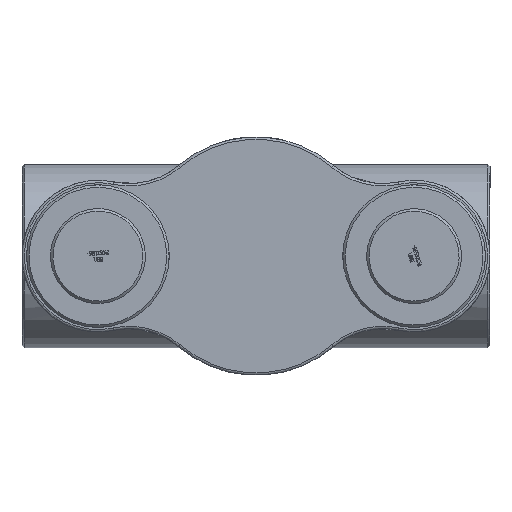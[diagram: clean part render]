
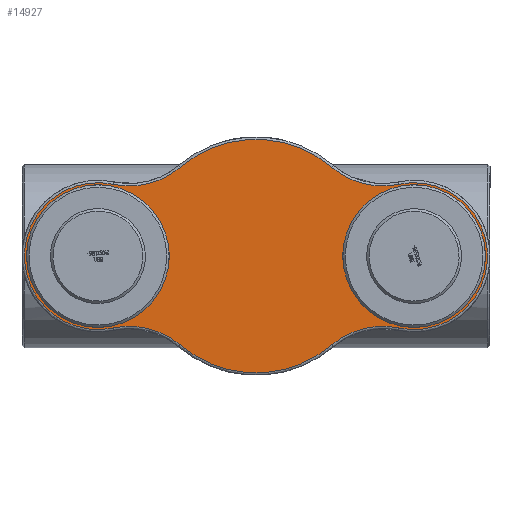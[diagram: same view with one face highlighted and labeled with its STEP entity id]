
A CAD part, front view. The second image highlights one B-rep face of the part: STEP entity #14927.
In plain terms, the highlighted planar face has unit normal (0, -1, 0) as drawn and (0, 0, -1) by its records, which use the part's own axes.
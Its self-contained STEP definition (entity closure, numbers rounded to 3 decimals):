
#3923=PLANE('',#15885);
#4330=FACE_BOUND('',#5301,.T.);
#4331=FACE_BOUND('',#5302,.T.);
#4431=FACE_OUTER_BOUND('',#5300,.T.);
#5300=EDGE_LOOP('',(#10298,#10299,#10300,#10301,#10302,#10303,#10304,#10305));
#5301=EDGE_LOOP('',(#10306));
#5302=EDGE_LOOP('',(#10307));
#6268=CIRCLE('',#15884,106.5);
#6269=CIRCLE('',#15886,151.);
#6270=CIRCLE('',#15887,161.);
#6271=CIRCLE('',#15888,240.);
#6272=CIRCLE('',#15889,161.);
#6273=CIRCLE('',#15890,151.);
#6274=CIRCLE('',#15891,161.);
#6275=CIRCLE('',#15892,240.);
#6276=CIRCLE('',#15893,161.);
#6277=CIRCLE('',#15894,106.5);
#6456=VERTEX_POINT('',#19365);
#6457=VERTEX_POINT('',#19368);
#6458=VERTEX_POINT('',#19369);
#6459=VERTEX_POINT('',#19371);
#6460=VERTEX_POINT('',#19373);
#6461=VERTEX_POINT('',#19375);
#6462=VERTEX_POINT('',#19377);
#6463=VERTEX_POINT('',#19379);
#6464=VERTEX_POINT('',#19381);
#6465=VERTEX_POINT('',#19384);
#7992=EDGE_CURVE('',#6456,#6456,#6268,.T.);
#7993=EDGE_CURVE('',#6457,#6458,#6269,.T.);
#7994=EDGE_CURVE('',#6459,#6457,#6270,.T.);
#7995=EDGE_CURVE('',#6460,#6459,#6271,.T.);
#7996=EDGE_CURVE('',#6461,#6460,#6272,.T.);
#7997=EDGE_CURVE('',#6462,#6461,#6273,.T.);
#7998=EDGE_CURVE('',#6463,#6462,#6274,.T.);
#7999=EDGE_CURVE('',#6464,#6463,#6275,.T.);
#8000=EDGE_CURVE('',#6458,#6464,#6276,.T.);
#8001=EDGE_CURVE('',#6465,#6465,#6277,.T.);
#10298=ORIENTED_EDGE('',*,*,#7993,.F.);
#10299=ORIENTED_EDGE('',*,*,#7994,.F.);
#10300=ORIENTED_EDGE('',*,*,#7995,.F.);
#10301=ORIENTED_EDGE('',*,*,#7996,.F.);
#10302=ORIENTED_EDGE('',*,*,#7997,.F.);
#10303=ORIENTED_EDGE('',*,*,#7998,.F.);
#10304=ORIENTED_EDGE('',*,*,#7999,.F.);
#10305=ORIENTED_EDGE('',*,*,#8000,.F.);
#10306=ORIENTED_EDGE('',*,*,#8001,.F.);
#10307=ORIENTED_EDGE('',*,*,#7992,.F.);
#14927=ADVANCED_FACE('',(#4431,#4330,#4331),#3923,.F.);
#15884=AXIS2_PLACEMENT_3D('',#19366,#16613,#16614);
#15885=AXIS2_PLACEMENT_3D('',#19367,#16615,#16616);
#15886=AXIS2_PLACEMENT_3D('',#19370,#16617,#16618);
#15887=AXIS2_PLACEMENT_3D('',#19372,#16619,#16620);
#15888=AXIS2_PLACEMENT_3D('',#19374,#16621,#16622);
#15889=AXIS2_PLACEMENT_3D('',#19376,#16623,#16624);
#15890=AXIS2_PLACEMENT_3D('',#19378,#16625,#16626);
#15891=AXIS2_PLACEMENT_3D('',#19380,#16627,#16628);
#15892=AXIS2_PLACEMENT_3D('',#19382,#16629,#16630);
#15893=AXIS2_PLACEMENT_3D('',#19383,#16631,#16632);
#15894=AXIS2_PLACEMENT_3D('',#19385,#16633,#16634);
#16613=DIRECTION('center_axis',(0.,0.,-1.));
#16614=DIRECTION('ref_axis',(1.,0.,0.));
#16615=DIRECTION('center_axis',(0.,0.,1.));
#16616=DIRECTION('ref_axis',(1.,0.,0.));
#16617=DIRECTION('center_axis',(0.,0.,1.));
#16618=DIRECTION('ref_axis',(-1.,0.,0.));
#16619=DIRECTION('center_axis',(0.,0.,-1.));
#16620=DIRECTION('ref_axis',(0.246,-0.969,0.));
#16621=DIRECTION('center_axis',(0.,0.,1.));
#16622=DIRECTION('ref_axis',(0.,1.,0.));
#16623=DIRECTION('center_axis',(0.,0.,-1.));
#16624=DIRECTION('ref_axis',(-0.246,-0.969,0.));
#16625=DIRECTION('center_axis',(0.,0.,1.));
#16626=DIRECTION('ref_axis',(1.,0.,0.));
#16627=DIRECTION('center_axis',(0.,0.,-1.));
#16628=DIRECTION('ref_axis',(-0.246,0.969,0.));
#16629=DIRECTION('center_axis',(0.,0.,1.));
#16630=DIRECTION('ref_axis',(0.,-1.,0.));
#16631=DIRECTION('center_axis',(0.,0.,-1.));
#16632=DIRECTION('ref_axis',(0.246,0.969,0.));
#16633=DIRECTION('center_axis',(0.,0.,-1.));
#16634=DIRECTION('ref_axis',(1.,0.,0.));
#19365=CARTESIAN_POINT('',(218.5,0.,0.));
#19366=CARTESIAN_POINT('Origin',(325.,0.,0.));
#19367=CARTESIAN_POINT('Origin',(0.,0.,0.));
#19368=CARTESIAN_POINT('',(-293.603,147.7,0.));
#19369=CARTESIAN_POINT('',(-293.603,-147.7,0.));
#19370=CARTESIAN_POINT('Origin',(-325.,0.,0.));
#19371=CARTESIAN_POINT('',(-155.686,182.652,0.));
#19372=CARTESIAN_POINT('Origin',(-260.126,305.181,0.));
#19373=CARTESIAN_POINT('',(155.686,182.652,0.));
#19374=CARTESIAN_POINT('Origin',(0.,0.,0.));
#19375=CARTESIAN_POINT('',(293.603,147.7,0.));
#19376=CARTESIAN_POINT('Origin',(260.126,305.181,0.));
#19377=CARTESIAN_POINT('',(293.603,-147.7,0.));
#19378=CARTESIAN_POINT('Origin',(325.,0.,0.));
#19379=CARTESIAN_POINT('',(155.686,-182.652,0.));
#19380=CARTESIAN_POINT('Origin',(260.126,-305.181,0.));
#19381=CARTESIAN_POINT('',(-155.686,-182.652,0.));
#19382=CARTESIAN_POINT('Origin',(0.,0.,0.));
#19383=CARTESIAN_POINT('Origin',(-260.126,-305.181,0.));
#19384=CARTESIAN_POINT('',(-431.5,0.,0.));
#19385=CARTESIAN_POINT('Origin',(-325.,0.,0.));
